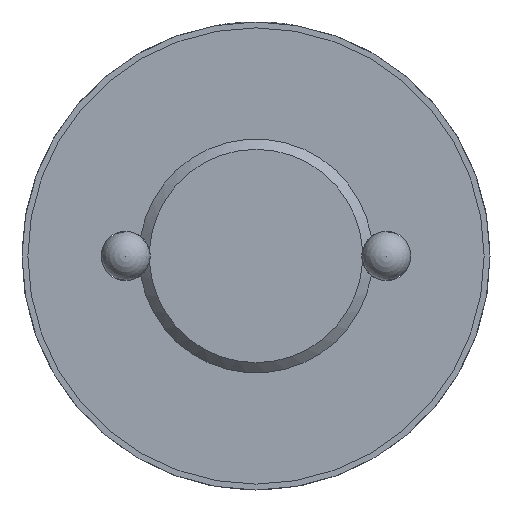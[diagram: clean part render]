
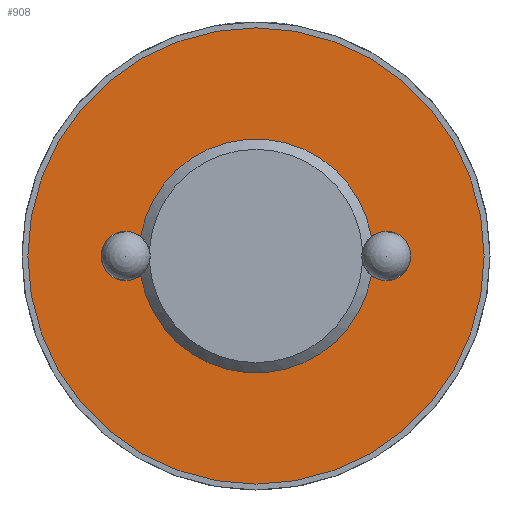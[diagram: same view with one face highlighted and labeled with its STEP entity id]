
A CAD part, left-side view. The second image highlights one B-rep face of the part: STEP entity #908.
In plain terms, the highlighted planar face has unit normal (-1, 0, 0).
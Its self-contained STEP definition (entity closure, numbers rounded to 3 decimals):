
#44=PLANE('',#993);
#127=CIRCLE('',#989,4.);
#128=CIRCLE('',#991,7.8);
#130=CIRCLE('',#994,4.);
#131=CIRCLE('',#995,0.84);
#132=CIRCLE('',#996,0.84);
#230=ORIENTED_EDGE('',*,*,#476,.F.);
#231=ORIENTED_EDGE('',*,*,#477,.T.);
#232=ORIENTED_EDGE('',*,*,#465,.F.);
#233=ORIENTED_EDGE('',*,*,#478,.T.);
#234=ORIENTED_EDGE('',*,*,#474,.T.);
#465=EDGE_CURVE('',#592,#593,#127,.T.);
#474=EDGE_CURVE('',#601,#601,#128,.T.);
#476=EDGE_CURVE('',#603,#604,#130,.T.);
#477=EDGE_CURVE('',#603,#593,#131,.T.);
#478=EDGE_CURVE('',#592,#604,#132,.T.);
#592=VERTEX_POINT('',#1391);
#593=VERTEX_POINT('',#1393);
#601=VERTEX_POINT('',#1423);
#603=VERTEX_POINT('',#1428);
#604=VERTEX_POINT('',#1429);
#742=EDGE_LOOP('',(#230,#231,#232,#233));
#743=EDGE_LOOP('',(#234));
#818=FACE_BOUND('',#742,.T.);
#819=FACE_BOUND('',#743,.T.);
#908=ADVANCED_FACE('',(#818,#819),#44,.F.);
#989=AXIS2_PLACEMENT_3D('',#1392,#1113,#1114);
#991=AXIS2_PLACEMENT_3D('',#1422,#1121,#1122);
#993=AXIS2_PLACEMENT_3D('',#1426,#1125,#1126);
#994=AXIS2_PLACEMENT_3D('',#1427,#1127,#1128);
#995=AXIS2_PLACEMENT_3D('',#1430,#1129,#1130);
#996=AXIS2_PLACEMENT_3D('',#1431,#1131,#1132);
#1113=DIRECTION('',(-1.,0.,0.));
#1114=DIRECTION('',(0.,0.,1.));
#1121=DIRECTION('',(-1.,0.,0.));
#1122=DIRECTION('',(0.,0.,1.));
#1125=DIRECTION('',(1.,0.,0.));
#1126=DIRECTION('',(0.,0.,-1.));
#1127=DIRECTION('',(-1.,0.,0.));
#1128=DIRECTION('',(0.,0.,1.));
#1129=DIRECTION('',(1.,0.,0.));
#1130=DIRECTION('',(0.,-1.,0.));
#1131=DIRECTION('',(1.,0.,0.));
#1132=DIRECTION('',(0.,1.,0.));
#1391=CARTESIAN_POINT('',(-13.5,-3.944,0.667));
#1392=CARTESIAN_POINT('',(-13.5,0.,0.));
#1393=CARTESIAN_POINT('',(-13.5,3.944,0.667));
#1422=CARTESIAN_POINT('',(-13.5,0.,0.));
#1423=CARTESIAN_POINT('',(-13.5,0.,7.8));
#1426=CARTESIAN_POINT('',(-13.5,7.8,0.));
#1427=CARTESIAN_POINT('',(-13.5,0.,0.));
#1428=CARTESIAN_POINT('',(-13.5,3.944,-0.667));
#1429=CARTESIAN_POINT('',(-13.5,-3.944,-0.667));
#1430=CARTESIAN_POINT('',(-13.5,4.455,0.));
#1431=CARTESIAN_POINT('',(-13.5,-4.455,0.));
